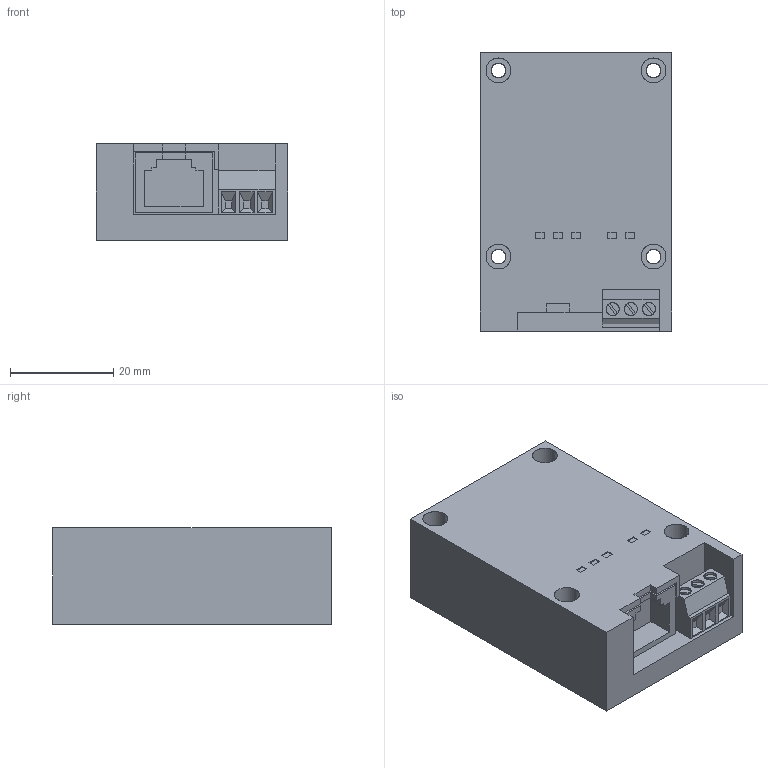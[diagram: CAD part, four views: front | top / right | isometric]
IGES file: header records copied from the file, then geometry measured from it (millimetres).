
Global section: preprocessor: SolidWorks 2008; organization: PanasonicElectricWorks; date: 090828.104931; units: millimetre
Bounding box: 37 x 53.8 x 18.6 mm (x, y, z)
Surface area: 9704.2 mm2 (no closed solid volume)
Topology: 0 solids, 0 shells, 141 faces, 1464 edges, 1464 vertices
Faces by surface type: bspline 113, revolution 28
